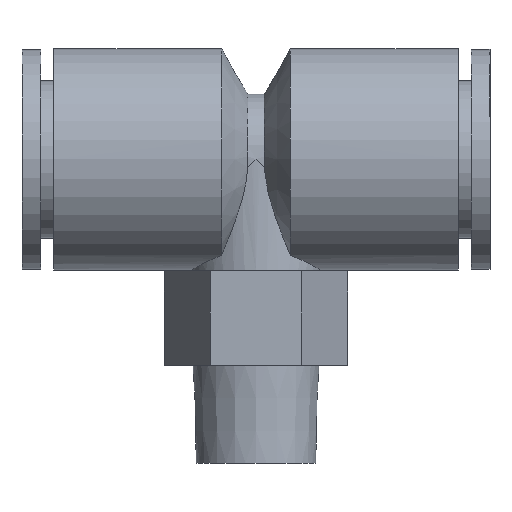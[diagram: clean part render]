
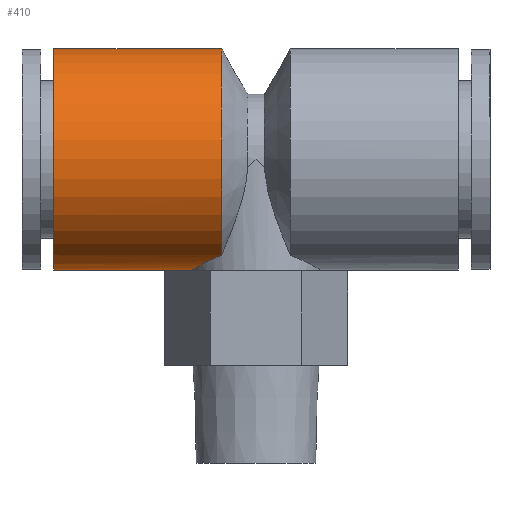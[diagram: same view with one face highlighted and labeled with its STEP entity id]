
A CAD part, top view. The second image highlights one B-rep face of the part: STEP entity #410.
In plain terms, the highlighted cylindrical face has radius 11.9 mm (diameter 23.8 mm), a full revolution.
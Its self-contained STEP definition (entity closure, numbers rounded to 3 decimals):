
#80=B_SPLINE_CURVE_WITH_KNOTS('',3,(#631,#632,#633,#634,#635,#636,#637),
 .UNSPECIFIED.,.F.,.F.,(4,1,1,1,4),(0.004,0.008,
0.011,0.015,0.018),.UNSPECIFIED.);
#138=ORIENTED_EDGE('',*,*,#185,.T.);
#139=ORIENTED_EDGE('',*,*,#215,.F.);
#140=ORIENTED_EDGE('',*,*,#216,.T.);
#185=EDGE_CURVE('',#234,#235,#80,.T.);
#215=EDGE_CURVE('',#234,#235,#275,.T.);
#216=EDGE_CURVE('',#258,#258,#276,.T.);
#234=VERTEX_POINT('',#638);
#235=VERTEX_POINT('',#639);
#258=VERTEX_POINT('',#728);
#275=CIRCLE('',#461,11.9);
#276=CIRCLE('',#462,11.9);
#308=EDGE_LOOP('',(#138,#139));
#309=EDGE_LOOP('',(#140));
#356=FACE_BOUND('',#308,.T.);
#357=FACE_BOUND('',#309,.T.);
#390=CYLINDRICAL_SURFACE('',#460,11.9);
#410=ADVANCED_FACE('',(#356,#357),#390,.T.);
#460=AXIS2_PLACEMENT_3D('',#725,#553,#554);
#461=AXIS2_PLACEMENT_3D('',#726,#555,#556);
#462=AXIS2_PLACEMENT_3D('',#727,#557,#558);
#553=DIRECTION('',(1.,0.,0.));
#554=DIRECTION('',(0.,1.,0.));
#555=DIRECTION('',(1.,0.,0.));
#556=DIRECTION('',(0.,1.,0.));
#557=DIRECTION('',(1.,0.,0.));
#558=DIRECTION('',(0.,1.,0.));
#631=CARTESIAN_POINT('',(-3.7,17.59,-5.942));
#632=CARTESIAN_POINT('',(-4.692,17.234,-5.324));
#633=CARTESIAN_POINT('',(-6.337,16.405,-3.626));
#634=CARTESIAN_POINT('',(-7.33,15.799,-0.018));
#635=CARTESIAN_POINT('',(-6.344,16.401,3.626));
#636=CARTESIAN_POINT('',(-4.688,17.235,5.327));
#637=CARTESIAN_POINT('',(-3.7,17.59,5.942));
#638=CARTESIAN_POINT('',(-3.7,17.59,-5.942));
#639=CARTESIAN_POINT('',(-3.7,17.59,5.942));
#725=CARTESIAN_POINT('',(25.1,27.9,0.));
#726=CARTESIAN_POINT('',(-3.7,27.9,0.));
#727=CARTESIAN_POINT('',(-21.7,27.9,0.));
#728=CARTESIAN_POINT('',(-21.7,39.8,0.));
